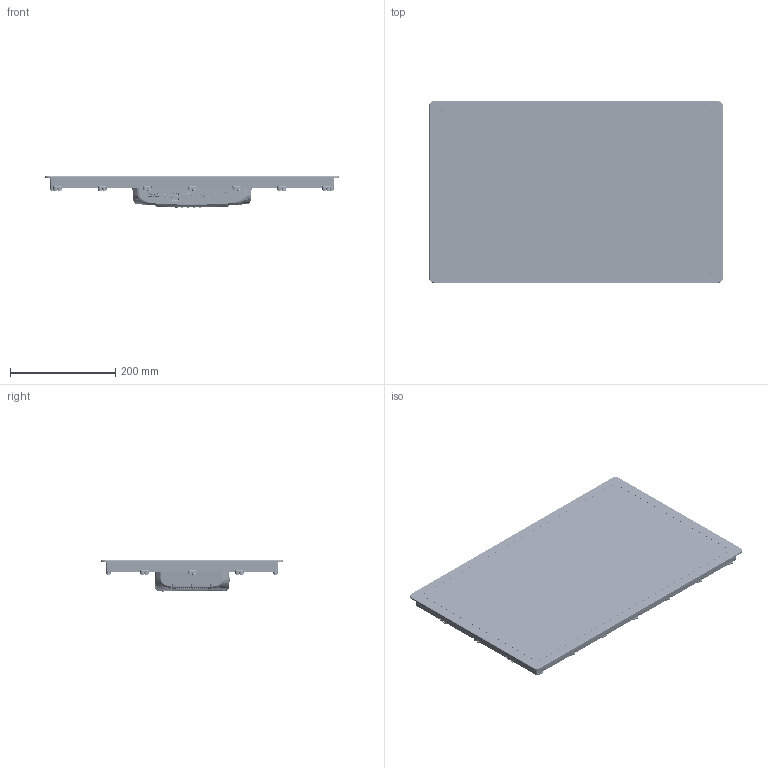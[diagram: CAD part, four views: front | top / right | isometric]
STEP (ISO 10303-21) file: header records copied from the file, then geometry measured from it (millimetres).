
FILE_DESCRIPTION(/* description */ (''),/* implementation_level */ '2;1');
FILE_NAME(/* name */ '21.5.stp',/* time_stamp */ '2026-03-11T16:48:13+08:00',/* author */ (''),/* organization */ (''),/* preprocessor_version */ 'ST-DEVELOPER v16',/* originating_system */ 'SIEMENS PLM Software NX 10.0',/* authorisation */ '');
FILE_SCHEMA (('AP203_CONFIGURATION_CONTROLLED_3D_DESIGN_OF_MECHANICAL_PARTS_AND_ASSEMBLIES_MIM_LF { 1 0 10303 403 2 1 2}'));
Products named in the file (1): Admi03F87D75pud7
Bounding box: 557 x 345 x 59.1 mm (x, y, z)
Volume: 1197595.6 mm3; surface area: 1098246 mm2
Topology: 196 solids, 216 shells, 17305 faces, 42561 edges, 25774 vertices
Faces by surface type: cylinder 6303, plane 5954, bspline 3097, torus 1154, cone 457, sphere 340
Full cylindrical faces by diameter (mm): 4.5 x1, 6 x14, 7 x20
Entity records: 671635 total; most frequent: CARTESIAN_POINT 306274, ORIENTED_EDGE 84122, DIRECTION 65049, EDGE_CURVE 42061, VERTEX_POINT 25734, AXIS2_PLACEMENT_3D 23588, EDGE_LOOP 18469, LINE 17873
